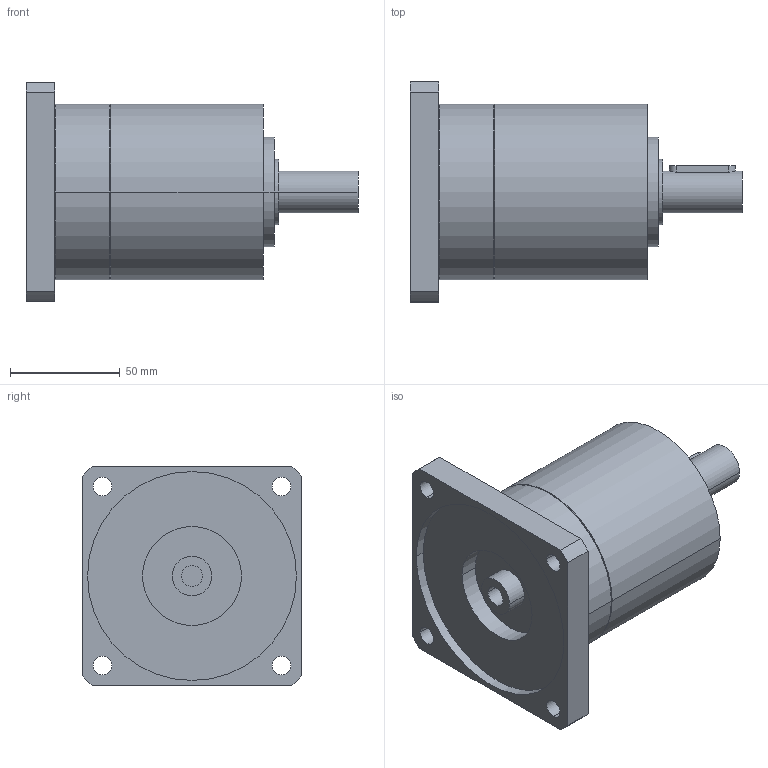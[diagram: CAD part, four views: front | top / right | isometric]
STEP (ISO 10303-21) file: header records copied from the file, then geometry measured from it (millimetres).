
FILE_DESCRIPTION(('CoCreate Modeling STEP Export'),'2;1');
FILE_NAME('GPR100_ig-3-4-5-6_19_B14_9.52_P07.stp','2014-08-26T10:09:37',(''),(''),'CoCreate Modeling STEP processor for AP214 (Solid Model)','CoCreate Modeling 16.00C 25-Feb-2009 (C) Parametric Technology GmbH','');
FILE_SCHEMA(('AUTOMOTIVE_DESIGN { 1 0 10303 214 1 1 1 1 }'));
Length unit declared in the file: millimetre
Products named in the file (2): GPR100_ig-3-4-5-6_19_B14_9.52_P07
Assembly tree (1 placements, depth 2):
  GPR100_ig-3-4-5-6_19_B14_9.52_P07
    GPR100_ig-3-4-5-6_19_B14_9.52_P07
Bounding box: 151 x 100 x 100 mm (x, y, z)
Volume: 578619.5 mm3; surface area: 58813.2 mm2
Topology: 1 solids, 1 shells, 70 faces, 187 edges, 131 vertices
Faces by surface type: cylinder 42, plane 22, cone 6
Entity records: 1934 total; most frequent: ORIENTED_EDGE 370, CARTESIAN_POINT 359, DIRECTION 262, EDGE_CURVE 185, VERTEX_POINT 131, AXIS2_PLACEMENT_3D 98, EDGE_LOOP 92, FACE_OUTER_BOUND 70
